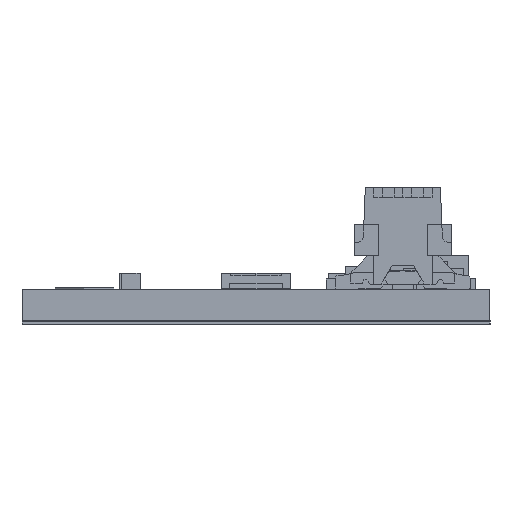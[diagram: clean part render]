
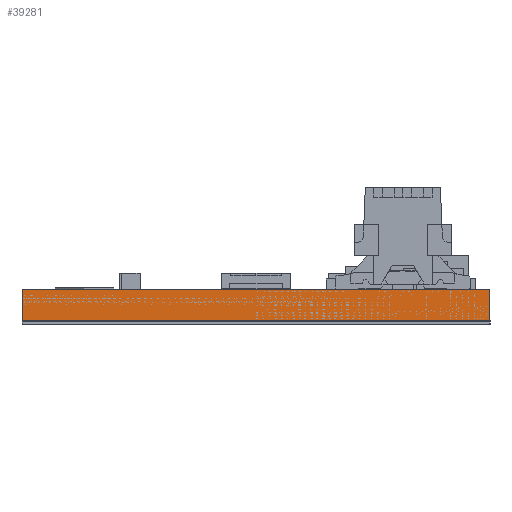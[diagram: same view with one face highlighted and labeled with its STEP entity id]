
A CAD part, left-side view. The second image highlights one B-rep face of the part: STEP entity #39281.
In plain terms, the highlighted planar face has unit normal (-1, 0, 0).
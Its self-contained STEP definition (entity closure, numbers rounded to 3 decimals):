
#3184 = DIRECTION ( 'NONE',  ( 0., 0., -1. ) ) ;
#6833 = DIRECTION ( 'NONE',  ( 0., -1., 0. ) ) ;
#8696 = EDGE_CURVE ( 'NONE', #84464, #9443, #45211, .T. ) ;
#9443 = VERTEX_POINT ( 'NONE', #112547 ) ;
#11095 = EDGE_CURVE ( 'NONE', #107998, #9443, #73519, .T. ) ;
#14263 = CARTESIAN_POINT ( 'NONE',  ( 0., 0., 1.575 ) ) ;
#22673 = EDGE_CURVE ( 'NONE', #101138, #107998, #92286, .T. ) ;
#24523 = EDGE_CURVE ( 'NONE', #101138, #84464, #48001, .T. ) ;
#30158 = CARTESIAN_POINT ( 'NONE',  ( 0., 24., 1.575 ) ) ;
#37543 = EDGE_LOOP ( 'NONE', ( #40989, #100117, #43436, #52445 ) ) ;
#39281 = ADVANCED_FACE ( 'NONE', ( #89443 ), #99455, .F. ) ;
#40833 = CARTESIAN_POINT ( 'NONE',  ( 0., 24., 0. ) ) ;
#40989 = ORIENTED_EDGE ( 'NONE', *, *, #8696, .T. ) ;
#43436 = ORIENTED_EDGE ( 'NONE', *, *, #22673, .F. ) ;
#45211 = LINE ( 'NONE', #40833, #112198 ) ;
#47006 = CARTESIAN_POINT ( 'NONE',  ( 0., 24., 1.575 ) ) ;
#48001 = LINE ( 'NONE', #70212, #112222 ) ;
#50172 = VECTOR ( 'NONE', #75647, 1000. ) ;
#50622 = CARTESIAN_POINT ( 'NONE',  ( 0., 24., 1.575 ) ) ;
#52445 = ORIENTED_EDGE ( 'NONE', *, *, #24523, .T. ) ;
#55839 = DIRECTION ( 'NONE',  ( 1., 0., 0. ) ) ;
#68715 = AXIS2_PLACEMENT_3D ( 'NONE', #47006, #55839, #3184 ) ;
#69372 = CARTESIAN_POINT ( 'NONE',  ( 0., 24., 0. ) ) ;
#70212 = CARTESIAN_POINT ( 'NONE',  ( 0., 24., 1.575 ) ) ;
#73519 = LINE ( 'NONE', #14263, #50172 ) ;
#75647 = DIRECTION ( 'NONE',  ( 0., 0., -1. ) ) ;
#84464 = VERTEX_POINT ( 'NONE', #69372 ) ;
#84573 = DIRECTION ( 'NONE',  ( 0., -1., 0. ) ) ;
#84827 = CARTESIAN_POINT ( 'NONE',  ( 0., 0., 1.575 ) ) ;
#89443 = FACE_OUTER_BOUND ( 'NONE', #37543, .T. ) ;
#89550 = VECTOR ( 'NONE', #6833, 1000. ) ;
#92286 = LINE ( 'NONE', #50622, #89550 ) ;
#99455 = PLANE ( 'NONE',  #68715 ) ;
#100117 = ORIENTED_EDGE ( 'NONE', *, *, #11095, .F. ) ;
#101138 = VERTEX_POINT ( 'NONE', #30158 ) ;
#107998 = VERTEX_POINT ( 'NONE', #84827 ) ;
#112198 = VECTOR ( 'NONE', #84573, 1000. ) ;
#112222 = VECTOR ( 'NONE', #113637, 1000. ) ;
#112547 = CARTESIAN_POINT ( 'NONE',  ( 0., 0., 0. ) ) ;
#113637 = DIRECTION ( 'NONE',  ( 0., 0., -1. ) ) ;
